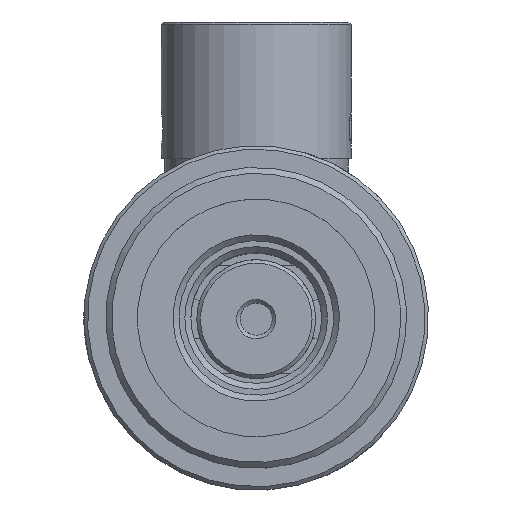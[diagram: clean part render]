
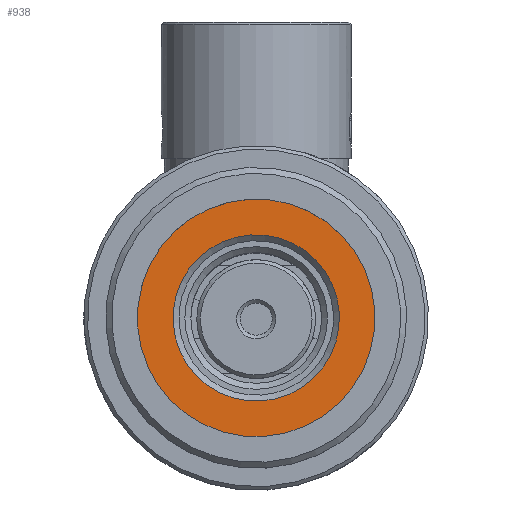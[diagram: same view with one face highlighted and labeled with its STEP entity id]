
A CAD part, top view. The second image highlights one B-rep face of the part: STEP entity #938.
In plain terms, the highlighted planar face has unit normal (0, 0, 1).
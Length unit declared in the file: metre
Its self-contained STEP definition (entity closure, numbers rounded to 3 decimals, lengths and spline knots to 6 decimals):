
#938=ADVANCED_FACE('NONE',(#2122,#2123),#2124,.F.);
#2122=FACE_BOUND('',#3647,.T.);
#2123=FACE_OUTER_BOUND('',#3648,.T.);
#2124=PLANE('',#3649);
#3647=EDGE_LOOP('',(#6241));
#3648=EDGE_LOOP('',(#6242));
#3649=AXIS2_PLACEMENT_3D('',#6243,#6244,#6245);
#6241=ORIENTED_EDGE('',*,*,#8328,.T.);
#6242=ORIENTED_EDGE('',*,*,#8329,.F.);
#6243=CARTESIAN_POINT('',(0.015252,-0.004595,0.0294));
#6244=DIRECTION('',(0.,0.0,-1.0));
#6245=DIRECTION('',(0.,1.0,0.));
#8328=EDGE_CURVE('NONE',#9906,#9906,#9907,.T.);
#8329=EDGE_CURVE('NONE',#9908,#9908,#9909,.T.);
#9906=VERTEX_POINT('',#12399);
#9907=CIRCLE('',#12400,0.007);
#9908=VERTEX_POINT('',#12401);
#9909=CIRCLE('',#12402,0.01);
#12399=CARTESIAN_POINT('',(0.004799,0.001709,0.0294));
#12400=AXIS2_PLACEMENT_3D('',#14430,#14431,#14432);
#12401=CARTESIAN_POINT('',(0.004595,0.004702,0.0294));
#12402=AXIS2_PLACEMENT_3D('',#14433,#14434,#14435);
#14430=CARTESIAN_POINT('',(0.005275,-0.005275,0.0294));
#14431=DIRECTION('',(0.,0.0,-1.0));
#14432=DIRECTION('',(-0.068,0.998,0.));
#14433=CARTESIAN_POINT('',(0.005275,-0.005275,0.0294));
#14434=DIRECTION('',(0.,0.0,-1.0));
#14435=DIRECTION('',(-0.068,0.998,0.));
